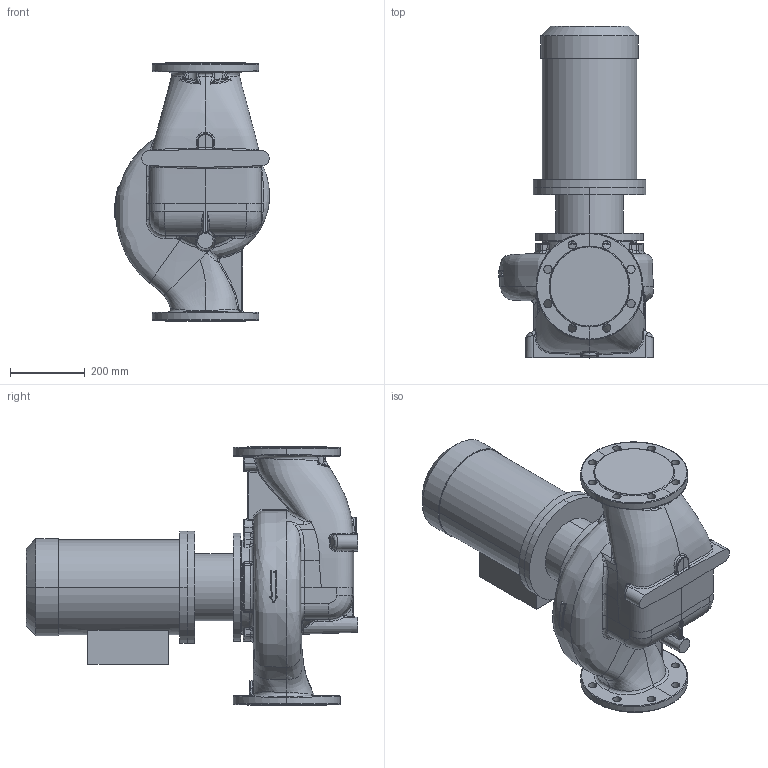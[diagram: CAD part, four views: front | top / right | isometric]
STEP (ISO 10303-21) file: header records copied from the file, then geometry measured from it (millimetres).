
FILE_DESCRIPTION (( 'STEP AP214' ), '1' );
FILE_NAME ('KRL 150-200-4-7,5.STEP', '2026-04-02T13:45:26', ( '' ), ( '' ), 'SwSTEP 2.0', 'SolidWorks 2016', '' );
FILE_SCHEMA (( 'AUTOMOTIVE_DESIGN' ));
Length unit declared in the file: millimetre
Products named in the file (1): KRL 150-200-4-7,5
Bounding box: 413.52 x 885.3 x 690 mm (x, y, z)
Volume: 70274713.9 mm3; surface area: 1975515.4 mm2
Topology: 4 solids, 4 shells, 738 faces, 1775 edges, 1028 vertices
Faces by surface type: bspline 368, cylinder 171, plane 106, cone 33, sphere 33, torus 27
Entity records: 75276 total; most frequent: CARTESIAN_POINT 53323, ORIENTED_EDGE 3478, DIRECTION 2078, EDGE_CURVE 1739, VERTEX_POINT 1028, AXIS2_PLACEMENT_3D 892, EDGE_LOOP 789, UNCERTAINTY_MEASURE_WITH_UNIT 744
